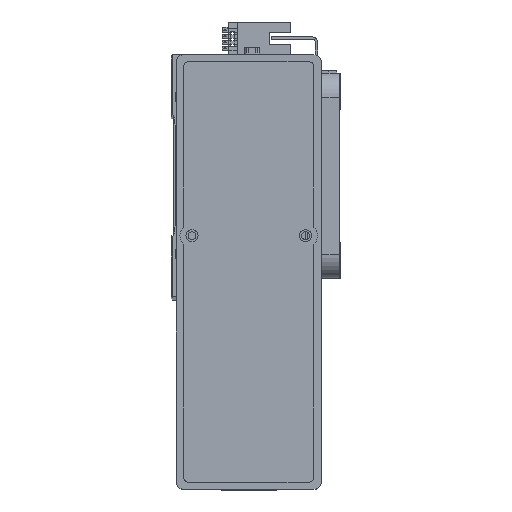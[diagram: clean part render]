
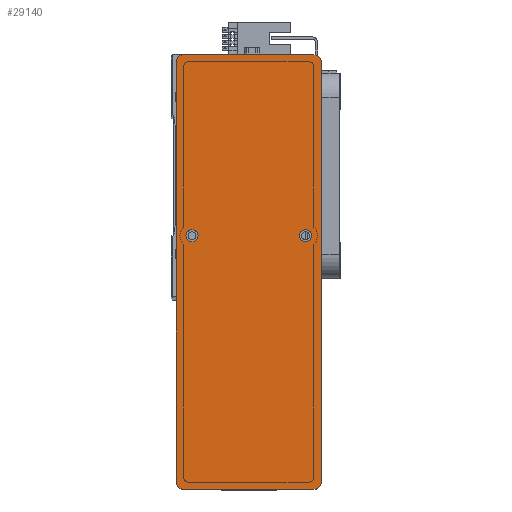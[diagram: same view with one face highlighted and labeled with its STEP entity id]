
A CAD part, top view. The second image highlights one B-rep face of the part: STEP entity #29140.
In plain terms, the highlighted planar face has unit normal (0, 0, 1) as drawn and (0, 0, -1) by its records, which use the part's own axes.
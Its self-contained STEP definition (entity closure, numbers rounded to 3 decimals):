
#64 = DIRECTION ( 'NONE',  ( -1., 0., 0. ) ) ;
#147 = DIRECTION ( 'NONE',  ( 0., 0., 1. ) ) ;
#357 = CIRCLE ( 'NONE', #44433, 3. ) ;
#719 = VERTEX_POINT ( 'NONE', #15667 ) ;
#909 = ORIENTED_EDGE ( 'NONE', *, *, #2002, .F. ) ;
#1820 = CIRCLE ( 'NONE', #7282, 3. ) ;
#2002 = EDGE_CURVE ( 'NONE', #27941, #8170, #48216, .T. ) ;
#2363 = FACE_OUTER_BOUND ( 'NONE', #49675, .T. ) ;
#2429 = ORIENTED_EDGE ( 'NONE', *, *, #56499, .F. ) ;
#4204 = CARTESIAN_POINT ( 'NONE',  ( -17.5, -23.5, 0. ) ) ;
#5954 = VECTOR ( 'NONE', #64, 1000. ) ;
#6271 = EDGE_CURVE ( 'NONE', #36642, #8165, #49626, .T. ) ;
#6721 = VECTOR ( 'NONE', #20617, 1000. ) ;
#7282 = AXIS2_PLACEMENT_3D ( 'NONE', #52001, #24292, #56645 ) ;
#7461 = DIRECTION ( 'NONE',  ( 0., 0., -1. ) ) ;
#8151 = ORIENTED_EDGE ( 'NONE', *, *, #6271, .F. ) ;
#8165 = VERTEX_POINT ( 'NONE', #17205 ) ;
#8170 = VERTEX_POINT ( 'NONE', #58567 ) ;
#8351 = AXIS2_PLACEMENT_3D ( 'NONE', #9177, #147, #32318 ) ;
#9177 = CARTESIAN_POINT ( 'NONE',  ( 0., 0., 0. ) ) ;
#9563 = CIRCLE ( 'NONE', #51963, 2.5 ) ;
#10411 = CARTESIAN_POINT ( 'NONE',  ( 87., 27., 0. ) ) ;
#11065 = CIRCLE ( 'NONE', #55393, 3. ) ;
#11593 = DIRECTION ( 'NONE',  ( 0., 1., 0. ) ) ;
#11690 = FACE_BOUND ( 'NONE', #15995, .T. ) ;
#12096 = EDGE_LOOP ( 'NONE', ( #57464, #32839 ) ) ;
#12118 = AXIS2_PLACEMENT_3D ( 'NONE', #12529, #44806, #17152 ) ;
#12529 = CARTESIAN_POINT ( 'NONE',  ( -15., -23.5, 0. ) ) ;
#12648 = AXIS2_PLACEMENT_3D ( 'NONE', #34994, #7461, #39692 ) ;
#12791 = VECTOR ( 'NONE', #11593, 1000. ) ;
#13145 = FACE_BOUND ( 'NONE', #12096, .T. ) ;
#13605 = ORIENTED_EDGE ( 'NONE', *, *, #32466, .T. ) ;
#13904 = ORIENTED_EDGE ( 'NONE', *, *, #18676, .F. ) ;
#14551 = VERTEX_POINT ( 'NONE', #54257 ) ;
#14587 = VERTEX_POINT ( 'NONE', #4204 ) ;
#14831 = CARTESIAN_POINT ( 'NONE',  ( -15., -23.5, 0. ) ) ;
#14839 = AXIS2_PLACEMENT_3D ( 'NONE', #10411, #42651, #15046 ) ;
#15046 = DIRECTION ( 'NONE',  ( 1., 0., 0. ) ) ;
#15599 = EDGE_CURVE ( 'NONE', #50348, #719, #32637, .T. ) ;
#15667 = CARTESIAN_POINT ( 'NONE',  ( -90., -27., 0. ) ) ;
#15995 = EDGE_LOOP ( 'NONE', ( #41329, #8151 ) ) ;
#17152 = DIRECTION ( 'NONE',  ( -1., 0., 0. ) ) ;
#17205 = CARTESIAN_POINT ( 'NONE',  ( -17.5, 23.5, 0. ) ) ;
#18028 = DIRECTION ( 'NONE',  ( 0., 0., -1. ) ) ;
#18438 = DIRECTION ( 'NONE',  ( 0., 0., -1. ) ) ;
#18676 = EDGE_CURVE ( 'NONE', #46191, #32640, #21085, .T. ) ;
#19434 = DIRECTION ( 'NONE',  ( -1., 0., 0. ) ) ;
#19959 = CIRCLE ( 'NONE', #14839, 3. ) ;
#20617 = DIRECTION ( 'NONE',  ( 0., -1., 0. ) ) ;
#20667 = EDGE_CURVE ( 'NONE', #14587, #56942, #53927, .T. ) ;
#21085 = LINE ( 'NONE', #55334, #5954 ) ;
#22107 = DIRECTION ( 'NONE',  ( 0., 0., -1. ) ) ;
#22852 = EDGE_CURVE ( 'NONE', #8165, #36642, #51574, .T. ) ;
#24292 = DIRECTION ( 'NONE',  ( 0., 0., -1. ) ) ;
#24629 = EDGE_CURVE ( 'NONE', #27941, #14551, #1820, .T. ) ;
#25121 = ORIENTED_EDGE ( 'NONE', *, *, #15599, .F. ) ;
#26956 = CARTESIAN_POINT ( 'NONE',  ( 90., -30., 0. ) ) ;
#27434 = EDGE_CURVE ( 'NONE', #46191, #8170, #19959, .T. ) ;
#27941 = VERTEX_POINT ( 'NONE', #33039 ) ;
#28244 = CARTESIAN_POINT ( 'NONE',  ( -87., -30., 0. ) ) ;
#29140 = ADVANCED_FACE ( 'NONE', ( #11690, #13145, #2363 ), #55408, .F. ) ;
#29834 = VERTEX_POINT ( 'NONE', #28244 ) ;
#32318 = DIRECTION ( 'NONE',  ( 1., 0., 0. ) ) ;
#32466 = EDGE_CURVE ( 'NONE', #29834, #719, #11065, .T. ) ;
#32637 = LINE ( 'NONE', #48335, #6721 ) ;
#32640 = VERTEX_POINT ( 'NONE', #47347 ) ;
#32839 = ORIENTED_EDGE ( 'NONE', *, *, #52004, .F. ) ;
#33039 = CARTESIAN_POINT ( 'NONE',  ( 90., -27., 0. ) ) ;
#34994 = CARTESIAN_POINT ( 'NONE',  ( -15., 23.5, 0. ) ) ;
#35664 = CARTESIAN_POINT ( 'NONE',  ( 87., 30., 0. ) ) ;
#36642 = VERTEX_POINT ( 'NONE', #55846 ) ;
#39321 = ORIENTED_EDGE ( 'NONE', *, *, #27434, .T. ) ;
#39499 = VECTOR ( 'NONE', #54680, 1000. ) ;
#39692 = DIRECTION ( 'NONE',  ( -1., 0., 0. ) ) ;
#41071 = ORIENTED_EDGE ( 'NONE', *, *, #24629, .T. ) ;
#41329 = ORIENTED_EDGE ( 'NONE', *, *, #22852, .F. ) ;
#42651 = DIRECTION ( 'NONE',  ( 0., 0., -1. ) ) ;
#44433 = AXIS2_PLACEMENT_3D ( 'NONE', #46128, #18438, #51607 ) ;
#44806 = DIRECTION ( 'NONE',  ( 0., 0., -1. ) ) ;
#45710 = CARTESIAN_POINT ( 'NONE',  ( -87., -27., 0. ) ) ;
#45814 = EDGE_CURVE ( 'NONE', #50348, #32640, #357, .T. ) ;
#46128 = CARTESIAN_POINT ( 'NONE',  ( -87., 27., 0. ) ) ;
#46177 = CARTESIAN_POINT ( 'NONE',  ( -12.5, -23.5, 0. ) ) ;
#46191 = VERTEX_POINT ( 'NONE', #35664 ) ;
#46755 = CARTESIAN_POINT ( 'NONE',  ( -90., 27., 0. ) ) ;
#47151 = DIRECTION ( 'NONE',  ( 0., 0., -1. ) ) ;
#47347 = CARTESIAN_POINT ( 'NONE',  ( -87., 30., 0. ) ) ;
#48216 = LINE ( 'NONE', #48763, #12791 ) ;
#48335 = CARTESIAN_POINT ( 'NONE',  ( -90., -30., 0. ) ) ;
#48763 = CARTESIAN_POINT ( 'NONE',  ( 90., -30., 0. ) ) ;
#49626 = CIRCLE ( 'NONE', #12648, 2.5 ) ;
#49675 = EDGE_LOOP ( 'NONE', ( #909, #41071, #2429, #13605, #25121, #52033, #13904, #39321 ) ) ;
#49845 = CARTESIAN_POINT ( 'NONE',  ( -15., 23.5, 0. ) ) ;
#50348 = VERTEX_POINT ( 'NONE', #46755 ) ;
#50384 = DIRECTION ( 'NONE',  ( 1., 0., 0. ) ) ;
#51574 = CIRCLE ( 'NONE', #51755, 2.5 ) ;
#51607 = DIRECTION ( 'NONE',  ( 1., 0., 0. ) ) ;
#51755 = AXIS2_PLACEMENT_3D ( 'NONE', #49845, #22107, #54436 ) ;
#51877 = LINE ( 'NONE', #26956, #39499 ) ;
#51963 = AXIS2_PLACEMENT_3D ( 'NONE', #14831, #47151, #19434 ) ;
#52001 = CARTESIAN_POINT ( 'NONE',  ( 87., -27., 0. ) ) ;
#52004 = EDGE_CURVE ( 'NONE', #56942, #14587, #9563, .T. ) ;
#52033 = ORIENTED_EDGE ( 'NONE', *, *, #45814, .T. ) ;
#53927 = CIRCLE ( 'NONE', #12118, 2.5 ) ;
#54257 = CARTESIAN_POINT ( 'NONE',  ( 87., -30., 0. ) ) ;
#54436 = DIRECTION ( 'NONE',  ( -1., 0., 0. ) ) ;
#54680 = DIRECTION ( 'NONE',  ( 1., 0., 0. ) ) ;
#55334 = CARTESIAN_POINT ( 'NONE',  ( 90., 30., 0. ) ) ;
#55393 = AXIS2_PLACEMENT_3D ( 'NONE', #45710, #18028, #50384 ) ;
#55408 = PLANE ( 'NONE',  #8351 ) ;
#55846 = CARTESIAN_POINT ( 'NONE',  ( -12.5, 23.5, 0. ) ) ;
#56499 = EDGE_CURVE ( 'NONE', #29834, #14551, #51877, .T. ) ;
#56645 = DIRECTION ( 'NONE',  ( 1., 0., 0. ) ) ;
#56942 = VERTEX_POINT ( 'NONE', #46177 ) ;
#57464 = ORIENTED_EDGE ( 'NONE', *, *, #20667, .F. ) ;
#58567 = CARTESIAN_POINT ( 'NONE',  ( 90., 27., 0. ) ) ;
